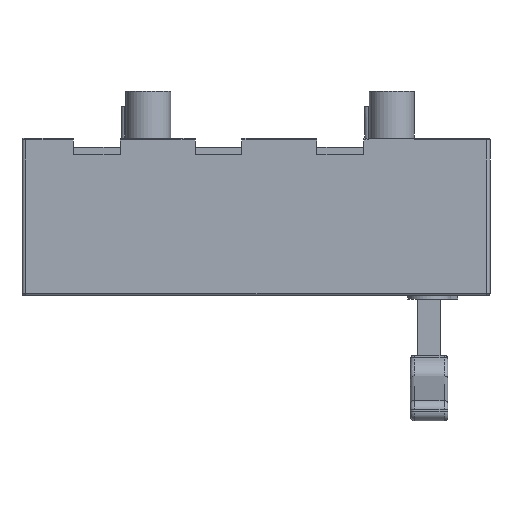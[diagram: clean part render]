
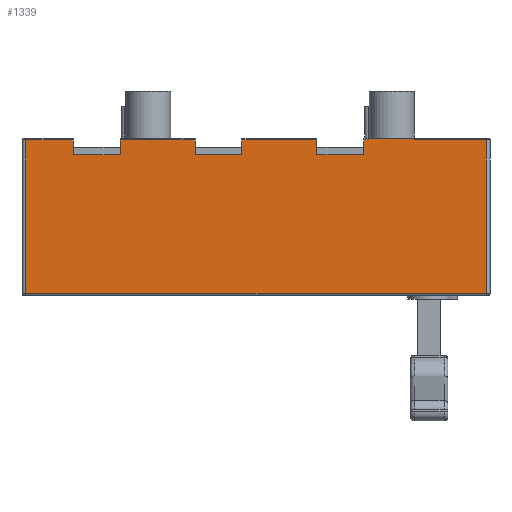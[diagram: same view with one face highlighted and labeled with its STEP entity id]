
A CAD part, front view. The second image highlights one B-rep face of the part: STEP entity #1339.
In plain terms, the highlighted planar face has unit normal (0, -1, 0).
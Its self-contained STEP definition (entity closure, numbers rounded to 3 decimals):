
#278=PLANE('',#4716);
#533=LINE('',#6541,#884);
#537=LINE('',#6554,#888);
#541=LINE('',#6567,#892);
#545=LINE('',#6580,#896);
#549=LINE('',#6593,#900);
#553=LINE('',#6606,#904);
#576=LINE('',#6711,#927);
#583=LINE('',#6723,#934);
#584=LINE('',#6725,#935);
#598=LINE('',#6754,#949);
#605=LINE('',#6766,#956);
#606=LINE('',#6768,#957);
#619=LINE('',#6795,#970);
#627=LINE('',#6809,#978);
#628=LINE('',#6811,#979);
#641=LINE('',#6874,#992);
#647=LINE('',#6915,#998);
#654=LINE('',#6999,#1005);
#659=LINE('',#7016,#1010);
#660=LINE('',#7018,#1011);
#682=LINE('',#7142,#1033);
#689=LINE('',#7163,#1040);
#721=LINE('',#7263,#1072);
#727=LINE('',#7275,#1078);
#737=LINE('',#7295,#1088);
#744=LINE('',#7309,#1095);
#745=LINE('',#7310,#1096);
#746=LINE('',#7311,#1097);
#884=VECTOR('',#5280,1.);
#888=VECTOR('',#5290,1.);
#892=VECTOR('',#5300,1.);
#896=VECTOR('',#5310,1.);
#900=VECTOR('',#5320,1.);
#904=VECTOR('',#5330,1.);
#927=VECTOR('',#5435,1.);
#934=VECTOR('',#5446,1.);
#935=VECTOR('',#5449,1.);
#949=VECTOR('',#5475,1.);
#956=VECTOR('',#5486,1.);
#957=VECTOR('',#5489,1.);
#970=VECTOR('',#5514,1.);
#978=VECTOR('',#5526,1.);
#979=VECTOR('',#5529,1.);
#992=VECTOR('',#5578,1.);
#998=VECTOR('',#5610,1.);
#1005=VECTOR('',#5651,1.);
#1010=VECTOR('',#5674,1.);
#1011=VECTOR('',#5677,1.);
#1033=VECTOR('',#5815,1.);
#1040=VECTOR('',#5836,1.);
#1072=VECTOR('',#5936,1.);
#1078=VECTOR('',#5948,1.);
#1088=VECTOR('',#5970,1.);
#1095=VECTOR('',#5991,1.);
#1096=VECTOR('',#5992,1.);
#1097=VECTOR('',#5993,1.);
#1339=ADVANCED_FACE('',(#1535),#278,.T.);
#1535=FACE_OUTER_BOUND('',#1846,.T.);
#1846=EDGE_LOOP('',(#2930,#2931,#2932,#2933,#2934,#2935,#2936,#2937,#2938,
#2939,#2940,#2941,#2942,#2943,#2944,#2945,#2946,#2947,#2948,#2949,#2950,
#2951,#2952,#2953,#2954,#2955,#2956,#2957));
#2930=ORIENTED_EDGE('',*,*,#3676,.F.);
#2931=ORIENTED_EDGE('',*,*,#4008,.T.);
#2932=ORIENTED_EDGE('',*,*,#3682,.F.);
#2933=ORIENTED_EDGE('',*,*,#3754,.F.);
#2934=ORIENTED_EDGE('',*,*,#3747,.F.);
#2935=ORIENTED_EDGE('',*,*,#3755,.F.);
#2936=ORIENTED_EDGE('',*,*,#3688,.F.);
#2937=ORIENTED_EDGE('',*,*,#4009,.T.);
#2938=ORIENTED_EDGE('',*,*,#3694,.F.);
#2939=ORIENTED_EDGE('',*,*,#3776,.F.);
#2940=ORIENTED_EDGE('',*,*,#3769,.F.);
#2941=ORIENTED_EDGE('',*,*,#3777,.F.);
#2942=ORIENTED_EDGE('',*,*,#3700,.F.);
#2943=ORIENTED_EDGE('',*,*,#4010,.T.);
#2944=ORIENTED_EDGE('',*,*,#3868,.F.);
#2945=ORIENTED_EDGE('',*,*,#3858,.T.);
#2946=ORIENTED_EDGE('',*,*,#3867,.T.);
#2947=ORIENTED_EDGE('',*,*,#3822,.T.);
#2948=ORIENTED_EDGE('',*,*,#3990,.T.);
#2949=ORIENTED_EDGE('',*,*,#3983,.F.);
#2950=ORIENTED_EDGE('',*,*,#3921,.F.);
#2951=ORIENTED_EDGE('',*,*,#4001,.T.);
#2952=ORIENTED_EDGE('',*,*,#3932,.T.);
#2953=ORIENTED_EDGE('',*,*,#3837,.T.);
#2954=ORIENTED_EDGE('',*,*,#3670,.F.);
#2955=ORIENTED_EDGE('',*,*,#3799,.T.);
#2956=ORIENTED_EDGE('',*,*,#3790,.T.);
#2957=ORIENTED_EDGE('',*,*,#3798,.T.);
#3199=VERTEX_POINT('',#6542);
#3200=VERTEX_POINT('',#6543);
#3205=VERTEX_POINT('',#6555);
#3206=VERTEX_POINT('',#6556);
#3211=VERTEX_POINT('',#6568);
#3212=VERTEX_POINT('',#6569);
#3217=VERTEX_POINT('',#6581);
#3218=VERTEX_POINT('',#6582);
#3223=VERTEX_POINT('',#6594);
#3224=VERTEX_POINT('',#6595);
#3229=VERTEX_POINT('',#6607);
#3230=VERTEX_POINT('',#6608);
#3269=VERTEX_POINT('',#6710);
#3270=VERTEX_POINT('',#6712);
#3281=VERTEX_POINT('',#6753);
#3282=VERTEX_POINT('',#6755);
#3293=VERTEX_POINT('',#6796);
#3294=VERTEX_POINT('',#6797);
#3310=VERTEX_POINT('',#6852);
#3311=VERTEX_POINT('',#6872);
#3321=VERTEX_POINT('',#6910);
#3323=VERTEX_POINT('',#6916);
#3333=VERTEX_POINT('',#6954);
#3337=VERTEX_POINT('',#6996);
#3385=VERTEX_POINT('',#7141);
#3386=VERTEX_POINT('',#7143);
#3391=VERTEX_POINT('',#7159);
#3427=VERTEX_POINT('',#7264);
#3670=EDGE_CURVE('',#3199,#3200,#533,.T.);
#3676=EDGE_CURVE('',#3205,#3206,#537,.T.);
#3682=EDGE_CURVE('',#3211,#3212,#541,.T.);
#3688=EDGE_CURVE('',#3217,#3218,#545,.T.);
#3694=EDGE_CURVE('',#3223,#3224,#549,.T.);
#3700=EDGE_CURVE('',#3229,#3230,#553,.T.);
#3747=EDGE_CURVE('',#3269,#3270,#576,.T.);
#3754=EDGE_CURVE('',#3270,#3211,#583,.T.);
#3755=EDGE_CURVE('',#3218,#3269,#584,.T.);
#3769=EDGE_CURVE('',#3281,#3282,#598,.T.);
#3776=EDGE_CURVE('',#3282,#3223,#605,.T.);
#3777=EDGE_CURVE('',#3230,#3281,#606,.T.);
#3790=EDGE_CURVE('',#3293,#3294,#619,.T.);
#3798=EDGE_CURVE('',#3294,#3206,#627,.T.);
#3799=EDGE_CURVE('',#3199,#3293,#628,.T.);
#3822=EDGE_CURVE('',#3310,#3311,#641,.T.);
#3837=EDGE_CURVE('',#3323,#3200,#647,.T.);
#3858=EDGE_CURVE('',#3337,#3333,#654,.T.);
#3867=EDGE_CURVE('',#3333,#3310,#659,.T.);
#3868=EDGE_CURVE('',#3337,#3321,#660,.T.);
#3921=EDGE_CURVE('',#3385,#3386,#682,.T.);
#3932=EDGE_CURVE('',#3391,#3323,#689,.T.);
#3983=EDGE_CURVE('',#3386,#3427,#721,.T.);
#3990=EDGE_CURVE('',#3311,#3427,#727,.T.);
#4001=EDGE_CURVE('',#3385,#3391,#737,.T.);
#4008=EDGE_CURVE('',#3205,#3212,#744,.T.);
#4009=EDGE_CURVE('',#3217,#3224,#745,.T.);
#4010=EDGE_CURVE('',#3229,#3321,#746,.T.);
#4716=AXIS2_PLACEMENT_3D('',#7312,#5994,#5995);
#5280=DIRECTION('',(0.,0.,1.));
#5290=DIRECTION('',(0.,0.,-1.));
#5300=DIRECTION('',(0.,0.,1.));
#5310=DIRECTION('',(0.,0.,-1.));
#5320=DIRECTION('',(0.,0.,1.));
#5330=DIRECTION('',(0.,0.,-1.));
#5435=DIRECTION('',(1.,0.,0.));
#5446=DIRECTION('',(0.,0.,1.));
#5449=DIRECTION('',(0.,0.,-1.));
#5475=DIRECTION('',(1.,0.,0.));
#5486=DIRECTION('',(0.,0.,1.));
#5489=DIRECTION('',(0.,0.,-1.));
#5514=DIRECTION('',(-1.,0.,0.));
#5526=DIRECTION('',(0.,0.,1.));
#5529=DIRECTION('',(0.,0.,-1.));
#5578=DIRECTION('',(-1.,0.,0.));
#5610=DIRECTION('',(-1.,0.,0.));
#5651=DIRECTION('',(1.,0.,0.));
#5674=DIRECTION('',(0.,0.,1.));
#5677=DIRECTION('',(0.,0.,1.));
#5815=DIRECTION('',(0.,0.,-1.));
#5836=DIRECTION('',(0.,0.,-1.));
#5936=DIRECTION('',(1.,0.,0.));
#5948=DIRECTION('',(0.,0.,1.));
#5970=DIRECTION('',(-1.,0.,0.));
#5991=DIRECTION('',(-1.,0.,0.));
#5992=DIRECTION('',(-1.,0.,0.));
#5993=DIRECTION('',(-1.,0.,0.));
#5994=DIRECTION('',(0.,-1.,0.));
#5995=DIRECTION('',(1.,0.,0.));
#6541=CARTESIAN_POINT('',(-15.,-52.5,4.));
#6542=CARTESIAN_POINT('',(-15.,-52.5,-5.));
#6543=CARTESIAN_POINT('',(-15.,-52.5,-1.));
#6554=CARTESIAN_POINT('',(-40.,-52.5,4.));
#6555=CARTESIAN_POINT('',(-40.,-52.5,-1.));
#6556=CARTESIAN_POINT('',(-40.,-52.5,-5.));
#6567=CARTESIAN_POINT('',(-80.,-52.5,4.));
#6568=CARTESIAN_POINT('',(-80.,-52.5,-5.));
#6569=CARTESIAN_POINT('',(-80.,-52.5,-1.));
#6580=CARTESIAN_POINT('',(-105.,-52.5,4.));
#6581=CARTESIAN_POINT('',(-105.,-52.5,-1.));
#6582=CARTESIAN_POINT('',(-105.,-52.5,-5.));
#6593=CARTESIAN_POINT('',(-145.,-52.5,4.));
#6594=CARTESIAN_POINT('',(-145.,-52.5,-5.));
#6595=CARTESIAN_POINT('',(-145.,-52.5,-1.));
#6606=CARTESIAN_POINT('',(-170.,-52.5,4.));
#6607=CARTESIAN_POINT('',(-170.,-52.5,-1.));
#6608=CARTESIAN_POINT('',(-170.,-52.5,-5.));
#6710=CARTESIAN_POINT('',(-105.,-52.5,-9.));
#6711=CARTESIAN_POINT('',(-12.,-52.5,-9.));
#6712=CARTESIAN_POINT('',(-80.,-52.5,-9.));
#6723=CARTESIAN_POINT('',(-80.,-52.5,4.));
#6725=CARTESIAN_POINT('',(-105.,-52.5,4.));
#6753=CARTESIAN_POINT('',(-170.,-52.5,-9.));
#6754=CARTESIAN_POINT('',(-12.,-52.5,-9.));
#6755=CARTESIAN_POINT('',(-145.,-52.5,-9.));
#6766=CARTESIAN_POINT('',(-145.,-52.5,4.));
#6768=CARTESIAN_POINT('',(-170.,-52.5,4.));
#6795=CARTESIAN_POINT('',(-12.,-52.5,-9.));
#6796=CARTESIAN_POINT('',(-15.,-52.5,-9.));
#6797=CARTESIAN_POINT('',(-40.,-52.5,-9.));
#6809=CARTESIAN_POINT('',(-40.,-52.5,4.));
#6811=CARTESIAN_POINT('',(-15.,-52.5,4.));
#6852=CARTESIAN_POINT('',(50.5,-52.5,-1.));
#6872=CARTESIAN_POINT('',(12.,-52.5,-1.));
#6874=CARTESIAN_POINT('',(12.,-52.5,-1.));
#6910=CARTESIAN_POINT('',(-195.5,-52.5,-1.));
#6915=CARTESIAN_POINT('',(-195.5,-52.5,-1.));
#6916=CARTESIAN_POINT('',(-12.5,-52.5,-1.));
#6954=CARTESIAN_POINT('',(50.5,-52.5,-83.));
#6996=CARTESIAN_POINT('',(-195.5,-52.5,-83.));
#6999=CARTESIAN_POINT('',(-12.,-52.5,-83.));
#7016=CARTESIAN_POINT('',(50.5,-52.5,-84.));
#7018=CARTESIAN_POINT('',(-195.5,-52.5,-84.));
#7141=CARTESIAN_POINT('',(-12.,-52.5,17.));
#7142=CARTESIAN_POINT('',(-12.,-52.5,25.));
#7143=CARTESIAN_POINT('',(-12.,-52.5,0.));
#7159=CARTESIAN_POINT('',(-12.5,-52.5,17.));
#7163=CARTESIAN_POINT('',(-12.5,-52.5,4.));
#7263=CARTESIAN_POINT('',(50.5,-52.5,0.));
#7264=CARTESIAN_POINT('',(12.,-52.5,0.));
#7275=CARTESIAN_POINT('',(12.,-52.5,4.));
#7295=CARTESIAN_POINT('',(7.5,-52.5,17.));
#7309=CARTESIAN_POINT('',(-195.5,-52.5,-1.));
#7310=CARTESIAN_POINT('',(-195.5,-52.5,-1.));
#7311=CARTESIAN_POINT('',(-195.5,-52.5,-1.));
#7312=CARTESIAN_POINT('',(-12.,-52.5,4.));
